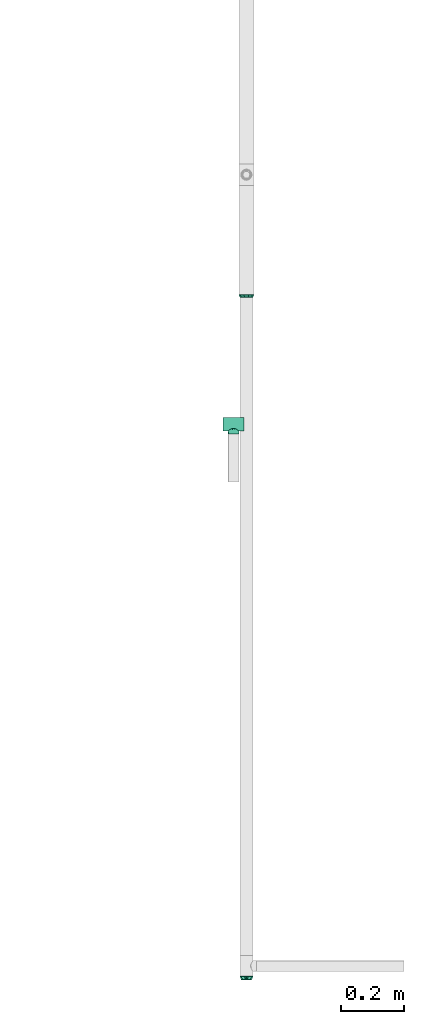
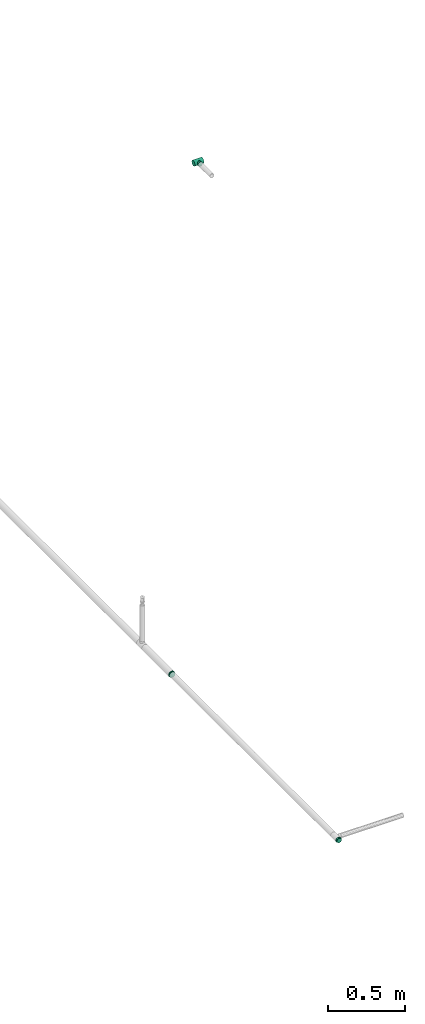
# One storey, part 39 of 63: 3 flow fittings.
"""IFC2X3 building model written with IfcOpenShell, lengths in millimetres."""

from ifc_helpers import new_model, entity, si_unit, converted_unit, derived_unit, direction, frame, origin_with_axes, place, context, subcontext, project, spatial, open_shell, surface_model, source, transform, mapped, type_object, element, save


model = new_model("IFC2X3")

# Units and contexts
model_context = context("Model", 3, precision=0.01, world=frame((0.0, 4.29681676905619e-09, 0.0)), true_north=direction((4.01073788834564e-13, 1.0)))
plan_context = context("Plan", 3, precision=0.01, world=frame((0.0, 4.29681676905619e-09, 0.0)), true_north=direction((4.01073788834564e-13, 1.0)))
body_context = subcontext(model_context, "Body", "Model", "MODEL_VIEW")
ifc_project = project(units=[converted_unit("PLANEANGLEUNIT", "DEGREE", entity("IfcPositiveLengthMeasure", 0.0174532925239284), si_unit("PLANEANGLEUNIT", "RADIAN"), dimensions=[0, 0, 0, 0, 0, 0, 0]), si_unit("AREAUNIT", "SQUARE_METRE"), si_unit("LENGTHUNIT", "METRE", prefix="MILLI"), si_unit("MASSUNIT", "GRAM", prefix="KILO"), si_unit("POWERUNIT", "WATT"), si_unit("PRESSUREUNIT", "PASCAL", prefix="KILO"), si_unit("FORCEUNIT", "NEWTON", prefix="KILO"), si_unit("ELECTRICVOLTAGEUNIT", "VOLT"), si_unit("ELECTRICCURRENTUNIT", "AMPERE"), si_unit("THERMODYNAMICTEMPERATUREUNIT", "DEGREE_CELSIUS"), si_unit("TIMEUNIT", "SECOND"), si_unit("VOLUMEUNIT", "CUBIC_METRE"), derived_unit("LINEARVELOCITYUNIT", [(si_unit("LENGTHUNIT", "METRE"), 1), (si_unit("TIMEUNIT", "SECOND"), -1)]), derived_unit("VOLUMETRICFLOWRATEUNIT", [(si_unit("VOLUMEUNIT", "CUBIC_METRE"), 1), (si_unit("TIMEUNIT", "SECOND"), -1)]), derived_unit("THERMALTRANSMITTANCEUNIT", [(si_unit("POWERUNIT", "WATT"), 1), (si_unit("THERMODYNAMICTEMPERATUREUNIT", "KELVIN"), -1), (si_unit("AREAUNIT", "SQUARE_METRE"), -1)]), derived_unit("SOUNDPRESSUREUNIT", [(si_unit("PRESSUREUNIT", "PASCAL"), 1)])], contexts=[model_context, plan_context])

# Site, building, storey
site_placement = place(None, frame((0.0, -4.29681676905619e-09, 0.0), z_axis=(0.0, 0.0, 1.0), x_axis=(1.0, 0.0, 0.0)))
site = spatial("IfcSite", under=ifc_project, at=site_placement, CompositionType="ELEMENT")
building_placement = place(site_placement, frame((0.0, 4.29681676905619e-09, 0.0), z_axis=(0.0, 0.0, 1.0), x_axis=(1.0, 0.0, 0.0)))
building = spatial("IfcBuilding", under=site, at=building_placement, Name="mc-building", CompositionType="ELEMENT")
storey_placement = place(building_placement, frame((0.0, 0.0, 207370.0), z_axis=(0.0, 0.0, 1.0), x_axis=(1.0, 0.0, 0.0)))
storey = spatial("IfcBuildingStorey", under=building, at=storey_placement, Name="Nivå E", CompositionType="ELEMENT", Elevation=207370.0)

# Flow fittings
pipe_fitting_type_1 = type_object("IfcPipeFittingType", Name="magi_pipe_fe_reducer_centric_short_NOR", PredefinedType="TRANSITION")
shared_shape_1 = source(origin_with_axes(), body_context, "Body", "SurfaceModel", [
    surface_model("IfcShellBasedSurfaceModel", [(8.0, 10.6, -18.35974), (8.0, 0.0, -21.2), (8.0, 5.48696, -20.47763), (8.0, 20.47763, -5.48696), (8.0, 14.99066, -14.99066), (8.0, -21.2, 0.0), (8.0, -14.99066, -14.99066), (8.0, 18.35974, -10.6), (8.0, -10.6, -18.35974), (8.0, -5.48696, -20.47763), (8.0, -18.35974, -10.6), (8.0, -20.47763, -5.48696), (8.0, -18.35974, 10.6), (8.0, 21.2, 0.0), (8.0, 20.47763, 5.48696), (8.0, 18.35974, 10.6), (8.0, 14.99066, 14.99066), (8.0, 0.0, 21.2), (8.0, 10.6, 18.35974), (8.0, 5.48696, 20.47763), (8.0, -14.99066, 14.99066), (8.0, -20.47763, 5.48696), (8.0, -5.48696, 20.47763), (8.0, -10.6, 18.35974), (6.0, 0.0, 21.2), (6.0, 5.48696, 20.47763), (6.0, 10.6, 18.35974), (6.0, 14.99066, 14.99066), (6.0, 18.35974, 10.6), (6.0, 20.47763, 5.48696), (6.0, -21.2, 0.0), (6.0, -14.99066, -14.99066), (6.0, -5.48696, 20.47763), (6.0, -14.99066, 14.99066), (6.0, -10.6, 18.35974), (6.0, -18.35974, 10.6), (6.0, -20.47763, 5.48696), (6.0, 20.47763, -5.48696), (6.0, 10.6, -18.35974), (6.0, 14.99066, -14.99066), (6.0, 18.35974, -10.6), (6.0, 5.48696, -20.47763), (6.0, 0.0, -21.2), (6.0, -18.35974, -10.6), (6.0, -20.47763, -5.48696), (6.0, -10.6, -18.35974), (6.0, -5.48696, -20.47763), (6.0, 21.2, 0.0), (-2.0, 0.0, 24.2), (-2.0, 6.26342, 23.37541), (-2.0, 12.1, 20.95781), (-2.0, 17.11198, 17.11198), (-2.0, 24.2, 0.0), (-2.0, 20.95781, 12.1), (-2.0, -23.37541, 6.26342), (-2.0, -17.11198, -17.11198), (-2.0, -6.26342, 23.37541), (-2.0, -17.11198, 17.11198), (-2.0, -12.1, 20.95781), (-2.0, -20.95781, 12.1), (-2.0, -24.2, 0.0), (-2.0, 23.37541, 6.26342), (-2.0, 23.37541, -6.26342), (-2.0, 6.26342, -23.37541), (-2.0, 17.11198, -17.11198), (-2.0, 20.95781, -12.1), (-2.0, 12.1, -20.95781), (-2.0, -23.37541, -6.26342), (-2.0, -20.95781, -12.1), (-2.0, -6.26342, -23.37541), (-2.0, -12.1, -20.95781), (-2.0, 0.0, -24.2), (0.0, 24.2, 0.0), (0.0, 6.26342, -23.37541), (0.0, 12.1, -20.95781), (0.0, 23.37541, -6.26342), (0.0, 17.11198, -17.11198), (0.0, 20.95781, -12.1), (0.0, -24.2, 0.0), (0.0, -12.1, -20.95781), (0.0, -6.26342, -23.37541), (0.0, 0.0, -24.2), (0.0, -17.11198, -17.11198), (0.0, -23.37541, -6.26342), (0.0, -20.95781, -12.1), (0.0, 20.95781, 12.1), (0.0, 17.11198, 17.11198), (0.0, 12.1, 20.95781), (0.0, 6.26342, 23.37541), (0.0, 0.0, 24.2), (0.0, -23.37541, 6.26342), (0.0, -17.11198, 17.11198), (0.0, -20.95781, 12.1), (0.0, -6.26342, 23.37541), (0.0, -12.1, 20.95781), (0.0, 23.37541, 6.26342), (6.0, -6.55116, 20.1624), (6.0, -17.15116, 12.46105), (6.0, 17.15116, 12.46105), (6.0, 6.55116, 20.1624), (6.0, -6.55116, -20.1624), (6.0, -17.15116, -12.46105), (6.0, 6.55116, -20.1624), (6.0, 17.15116, -12.46105), (0.0, 7.47821, 23.01557), (0.0, 19.57821, 14.2244), (0.0, -7.47821, 23.01557), (0.0, -19.57821, 14.2244), (0.0, 7.47821, -23.01557), (0.0, 19.57821, -14.2244), (0.0, -7.47821, -23.01557), (0.0, -19.57821, -14.2244), (6.0, 11.85116, -16.31172), (0.0, 13.52821, -18.61999), (0.0, 21.8891, -7.1122), (6.0, 19.17558, -6.23052), (0.0, -22.51537, -5.18476), (6.0, 0.0, -20.1624), (0.0, 0.0, -23.01557), (6.0, -19.17558, -6.23052), (0.0, -13.52821, -18.61999), (6.0, -11.85116, -16.31172), (0.0, -21.04679, -9.70458), (6.0, -11.85116, 16.31172), (0.0, -13.52821, 18.61999), (0.0, -21.8891, 7.1122), (6.0, -19.17558, 6.23052), (0.0, 22.51537, 5.18476), (6.0, 0.0, 20.1624), (0.0, 0.0, 23.01557), (6.0, 19.17558, 6.23052), (0.0, 13.52821, 18.61999), (6.0, 11.85116, 16.31172), (0.0, 21.04679, 9.70458)], [open_shell([[[0, 1, 2]], [[3, 0, 4]], [[5, 6, 0]], [[3, 4, 7]], [[3, 5, 0]], [[1, 8, 9]], [[1, 0, 8]], [[10, 5, 11]], [[8, 0, 6]], [[10, 6, 5]], [[12, 3, 13]], [[14, 15, 16]], [[14, 16, 17]], [[18, 19, 17]], [[18, 17, 16]], [[14, 17, 20]], [[5, 12, 21]], [[3, 12, 5]], [[20, 22, 23]], [[12, 14, 20]], [[17, 22, 20]], [[12, 13, 14]], [[24, 25, 26]], [[24, 26, 27]], [[27, 28, 29]], [[27, 29, 24]], [[30, 24, 31]], [[32, 33, 34]], [[32, 24, 33]], [[35, 30, 36]], [[33, 24, 35]], [[24, 30, 35]], [[24, 29, 31]], [[29, 37, 38]], [[39, 37, 40]], [[31, 29, 38]], [[38, 37, 39]], [[41, 42, 38]], [[30, 43, 44]], [[31, 43, 30]], [[45, 42, 46]], [[45, 31, 38]], [[42, 45, 38]], [[37, 29, 47]], [[44, 11, 30]], [[43, 10, 44]], [[8, 31, 45]], [[43, 31, 6]], [[9, 45, 46]], [[44, 10, 11]], [[11, 5, 30]], [[9, 8, 45]], [[6, 31, 8]], [[6, 10, 43]], [[1, 9, 46]], [[46, 42, 1]], [[41, 2, 42]], [[38, 0, 41]], [[7, 39, 40]], [[38, 39, 4]], [[3, 40, 37]], [[38, 4, 0]], [[0, 2, 41]], [[13, 3, 37]], [[7, 40, 3]], [[7, 4, 39]], [[47, 13, 37]], [[42, 2, 1]], [[29, 14, 47]], [[28, 15, 29]], [[18, 27, 26]], [[28, 27, 16]], [[19, 26, 25]], [[29, 15, 14]], [[14, 13, 47]], [[19, 18, 26]], [[16, 27, 18]], [[16, 15, 28]], [[17, 19, 25]], [[25, 24, 17]], [[32, 22, 24]], [[34, 23, 32]], [[12, 33, 35]], [[34, 33, 20]], [[21, 35, 36]], [[34, 20, 23]], [[23, 22, 32]], [[5, 21, 36]], [[12, 35, 21]], [[12, 20, 33]], [[30, 5, 36]], [[24, 22, 17]], [[48, 49, 50]], [[48, 50, 51]], [[52, 51, 53]], [[54, 48, 55]], [[48, 51, 55]], [[56, 57, 58]], [[56, 48, 57]], [[57, 54, 59]], [[48, 54, 57]], [[54, 55, 60]], [[52, 53, 61]], [[51, 62, 63]], [[64, 62, 65]], [[66, 63, 62]], [[66, 62, 64]], [[63, 55, 51]], [[67, 55, 68]], [[60, 55, 67]], [[63, 69, 70]], [[70, 55, 63]], [[69, 63, 71]], [[62, 51, 52]], [[72, 73, 74]], [[75, 74, 76]], [[75, 72, 74]], [[75, 76, 77]], [[73, 78, 79]], [[73, 80, 81]], [[73, 79, 80]], [[82, 83, 84]], [[82, 79, 78]], [[82, 78, 83]], [[73, 72, 85]], [[85, 86, 73]], [[73, 86, 78]], [[87, 88, 89]], [[87, 89, 86]], [[78, 86, 89]], [[90, 91, 92]], [[93, 90, 78]], [[91, 93, 94]], [[93, 91, 90]], [[78, 89, 93]], [[72, 95, 85]], [[67, 83, 60]], [[68, 84, 67]], [[79, 55, 70]], [[68, 55, 82]], [[80, 70, 69]], [[67, 84, 83]], [[83, 78, 60]], [[80, 79, 70]], [[82, 55, 79]], [[82, 84, 68]], [[81, 80, 69]], [[69, 71, 81]], [[63, 73, 71]], [[66, 74, 63]], [[77, 64, 65]], [[66, 64, 76]], [[75, 65, 62]], [[66, 76, 74]], [[74, 73, 63]], [[72, 75, 62]], [[77, 65, 75]], [[77, 76, 64]], [[52, 72, 62]], [[71, 73, 81]], [[61, 95, 52]], [[53, 85, 61]], [[87, 51, 50]], [[53, 51, 86]], [[88, 50, 49]], [[61, 85, 95]], [[95, 72, 52]], [[88, 87, 50]], [[86, 51, 87]], [[86, 85, 53]], [[89, 88, 49]], [[49, 48, 89]], [[56, 93, 48]], [[58, 94, 56]], [[92, 57, 59]], [[58, 57, 91]], [[90, 59, 54]], [[58, 91, 94]], [[94, 93, 56]], [[78, 90, 54]], [[92, 59, 90]], [[92, 91, 57]], [[60, 78, 54]], [[48, 93, 89]], [[96, 97, 98]], [[96, 98, 99]], [[98, 97, 47]], [[97, 100, 47]], [[97, 101, 100]], [[102, 103, 47]], [[47, 100, 102]], [[101, 97, 30]], [[104, 105, 106]], [[105, 107, 106]], [[107, 105, 78]], [[105, 108, 78]], [[109, 108, 105]], [[78, 110, 111]], [[78, 108, 110]], [[105, 72, 109]], [[109, 103, 112]], [[102, 113, 112]], [[113, 102, 108]], [[114, 115, 103]], [[47, 115, 72]], [[113, 109, 112]], [[30, 78, 116]], [[108, 117, 118]], [[118, 117, 100]], [[100, 110, 118]], [[103, 109, 114]], [[72, 115, 114]], [[116, 119, 30]], [[120, 121, 101]], [[100, 121, 110]], [[119, 122, 101]], [[110, 121, 120]], [[101, 111, 120]], [[119, 116, 122]], [[102, 117, 108]], [[122, 111, 101]], [[107, 97, 123]], [[96, 124, 123]], [[124, 96, 106]], [[125, 126, 97]], [[30, 126, 78]], [[124, 107, 123]], [[47, 72, 127]], [[106, 128, 129]], [[129, 128, 99]], [[99, 104, 129]], [[97, 107, 125]], [[78, 126, 125]], [[127, 130, 47]], [[131, 132, 98]], [[99, 132, 104]], [[130, 133, 98]], [[104, 132, 131]], [[98, 105, 131]], [[130, 127, 133]], [[96, 128, 106]], [[133, 105, 98]]])]),
])
flow_fitting_1_placement = place(storey_placement, frame((728641.29045, 436829.40604, 2700.0), z_axis=(0.0, 0.0, 1.0), x_axis=(0.0, -1.0, 0.0)))
element("IfcFlowFitting", 1, at=flow_fitting_1_placement, inside=storey, type_object=pipe_fitting_type_1, Name="magi_pipe_fe_reducer_centric_short_NOR", context=body_context, shape_type="MappedRepresentation", body=[
    mapped(shared_shape_1, transform((0.0, 0.0, 0.0), scale=1.0)),
])
pipe_fitting_type_2 = type_object("IfcPipeFittingType", Name="magi_pipe_fe_tee_centric_90_NOR", PredefinedType="JUNCTION")
shared_shape_2 = source(origin_with_axes(), body_context, "Body", "SurfaceModel", [
    surface_model("IfcShellBasedSurfaceModel", [(-33.8, 0.0, -21.2), (-33.8, -5.48696, -20.47763), (-33.8, 5.48696, -20.47763), (-33.8, 10.6, -18.35974), (-33.8, 14.99066, -14.99066), (-33.8, -20.47763, 5.48696), (-33.8, 18.35974, -10.6), (-33.8, 10.6, 18.35974), (-33.8, -14.99066, -14.99066), (-33.8, -18.35974, -10.6), (-33.8, -10.6, -18.35974), (-33.8, -20.47763, -5.48696), (-33.8, -21.2, 0.0), (-33.8, 18.35974, 10.6), (-33.8, 20.47763, -5.48696), (-33.8, 20.47763, 5.48696), (-33.8, 21.2, 0.0), (-33.8, 14.99066, 14.99066), (-33.8, 5.48696, 20.47763), (-33.8, 0.0, 21.2), (-33.8, -18.35974, 10.6), (-33.8, -14.99066, 14.99066), (-33.8, -10.6, 18.35974), (-33.8, -5.48696, 20.47763), (33.8, 5.48696, -20.47763), (33.8, -5.48696, -20.47763), (33.8, 0.0, -21.2), (33.8, 14.99066, -14.99066), (33.8, 10.6, -18.35974), (33.8, 18.35974, -10.6), (33.8, 20.47763, -5.48696), (33.8, -21.2, 0.0), (33.8, -10.6, -18.35974), (33.8, -18.35974, -10.6), (33.8, -14.99066, -14.99066), (33.8, -20.47763, -5.48696), (33.8, -20.47763, 5.48696), (33.8, 21.2, 0.0), (33.8, 20.47763, 5.48696), (33.8, 18.35974, 10.6), (33.8, 10.6, 18.35974), (33.8, 14.99066, 14.99066), (33.8, 0.0, 21.2), (33.8, 5.48696, 20.47763), (33.8, -14.99066, 14.99066), (33.8, -18.35974, 10.6), (33.8, -10.6, 18.35974), (33.8, -5.48696, 20.47763), (16.9, -21.2, 0.0), (15.78624, -20.32327, 6.03364), (12.81343, -18.11115, 11.01935), (8.52479, -15.37862, 14.59239), (3.07939, -13.16482, 16.61708), (-16.9, -21.2, 0.0), (-15.78686, -20.32375, 6.032), (-8.52604, -15.37932, 14.59166), (-3.0848, -13.16609, 16.61608), (-12.81602, -18.11299, 11.01634), (3.07939, -13.16482, -16.61708), (12.81343, -18.11115, -11.01935), (8.52479, -15.37862, -14.59239), (15.78624, -20.32327, -6.03364), (-3.0848, -13.16609, -16.61608), (-8.52604, -15.37932, -14.59166), (-12.81602, -18.11299, -11.01634), (-15.78686, -20.32375, -6.032), (4.37404, -31.8, -16.32415), (-16.9, -31.8, 0.0), (0.0, -31.8, -16.9), (14.63583, -31.8, -8.45), (8.45, -31.8, -14.63583), (16.32415, -31.8, -4.37404), (11.9501, -31.8, -11.9501), (-11.9501, -31.8, -11.9501), (-8.45, -31.8, -14.63583), (-4.37404, -31.8, -16.32415), (-14.63583, -31.8, -8.45), (-16.32415, -31.8, -4.37404), (16.9, -31.8, 0.0), (8.45, -31.8, 14.63583), (16.32415, -31.8, 4.37404), (14.63583, -31.8, 8.45), (-8.45, -31.8, 14.63583), (11.9501, -31.8, 11.9501), (4.37404, -31.8, 16.32415), (-16.32415, -31.8, 4.37404), (-11.9501, -31.8, 11.9501), (-14.63583, -31.8, 8.45), (0.0, -31.8, 16.9), (-4.37404, -31.8, 16.32415), (-16.34343, -20.76188, 3.016), (16.34312, -20.76163, 3.01682), (-0.00271, -13.16546, 16.61658), (16.34312, -20.76163, -3.01682), (-0.00271, -13.16546, -16.61658), (-16.34343, -20.76188, -3.016)], [open_shell([[[0, 1, 2]], [[3, 2, 4]], [[5, 2, 1]], [[4, 2, 6]], [[6, 2, 7]], [[8, 9, 10]], [[1, 10, 9]], [[9, 11, 1]], [[12, 1, 11]], [[5, 1, 12]], [[13, 14, 6]], [[13, 15, 16]], [[6, 7, 13]], [[5, 7, 2]], [[17, 13, 7]], [[18, 7, 19]], [[20, 21, 5]], [[22, 5, 21]], [[23, 19, 22]], [[7, 5, 22]], [[22, 19, 7]], [[16, 14, 13]], [[24, 25, 26]], [[27, 24, 28]], [[29, 30, 24]], [[29, 24, 27]], [[31, 24, 30]], [[32, 33, 34]], [[33, 32, 25]], [[33, 31, 35]], [[31, 33, 25]], [[25, 24, 31]], [[30, 36, 31]], [[37, 38, 39]], [[37, 39, 40]], [[37, 40, 36]], [[40, 39, 41]], [[42, 40, 43]], [[36, 44, 45]], [[44, 36, 46]], [[46, 42, 47]], [[46, 36, 40]], [[40, 42, 46]], [[37, 36, 30]], [[31, 36, 48]], [[49, 48, 36]], [[36, 45, 49]], [[45, 44, 50]], [[51, 50, 44]], [[52, 51, 44]], [[44, 46, 52]], [[45, 50, 49]], [[53, 54, 5]], [[5, 12, 53]], [[54, 20, 5]], [[55, 56, 21]], [[20, 57, 21]], [[57, 20, 54]], [[21, 57, 55]], [[56, 22, 21]], [[52, 22, 56]], [[19, 47, 42]], [[23, 46, 47]], [[18, 42, 43]], [[39, 38, 15]], [[17, 40, 41]], [[13, 41, 39]], [[43, 40, 7]], [[16, 38, 37]], [[22, 46, 23]], [[23, 47, 19]], [[18, 19, 42]], [[43, 7, 18]], [[7, 40, 17]], [[13, 17, 41]], [[15, 13, 39]], [[38, 16, 15]], [[46, 22, 52]], [[6, 30, 29]], [[14, 37, 30]], [[4, 29, 27]], [[26, 25, 1]], [[2, 28, 24]], [[0, 24, 26]], [[27, 28, 3]], [[10, 25, 32]], [[16, 37, 14]], [[14, 30, 6]], [[4, 6, 29]], [[27, 3, 4]], [[3, 28, 2]], [[0, 2, 24]], [[1, 0, 26]], [[25, 10, 1]], [[32, 58, 10]], [[34, 59, 60]], [[59, 34, 33]], [[60, 58, 34]], [[34, 58, 32]], [[35, 31, 48]], [[35, 61, 33]], [[61, 35, 48]], [[33, 61, 59]], [[62, 63, 8]], [[8, 64, 9]], [[64, 8, 63]], [[62, 8, 10]], [[65, 53, 11]], [[65, 11, 9]], [[11, 53, 12]], [[65, 9, 64]], [[58, 62, 10]], [[66, 67, 68]], [[69, 66, 70]], [[69, 71, 66]], [[69, 70, 72]], [[67, 66, 71]], [[68, 73, 74]], [[74, 75, 68]], [[76, 67, 77]], [[73, 68, 76]], [[67, 76, 68]], [[71, 78, 67]], [[79, 78, 80]], [[79, 80, 81]], [[82, 67, 79]], [[79, 81, 83]], [[82, 79, 84]], [[85, 86, 87]], [[86, 85, 82]], [[82, 88, 89]], [[85, 67, 82]], [[84, 88, 82]], [[79, 67, 78]], [[85, 90, 67]], [[57, 87, 86]], [[85, 87, 54]], [[86, 82, 55]], [[85, 54, 90]], [[90, 53, 67]], [[54, 87, 57]], [[91, 49, 80]], [[55, 89, 56]], [[55, 57, 86]], [[88, 52, 92]], [[55, 82, 89]], [[52, 88, 84]], [[79, 51, 84]], [[50, 83, 81]], [[83, 51, 79]], [[81, 80, 49]], [[83, 50, 51]], [[51, 52, 84]], [[78, 91, 80]], [[49, 50, 81]], [[91, 78, 48]], [[88, 56, 89]], [[92, 56, 88]], [[71, 93, 78]], [[59, 69, 72]], [[71, 69, 61]], [[72, 70, 60]], [[93, 48, 78]], [[61, 69, 59]], [[60, 66, 58]], [[60, 59, 72]], [[68, 62, 94]], [[60, 70, 66]], [[95, 67, 53]], [[95, 65, 77]], [[71, 61, 93]], [[75, 62, 68]], [[65, 76, 77]], [[73, 76, 64]], [[68, 58, 66]], [[75, 63, 62]], [[63, 75, 74]], [[74, 73, 63]], [[63, 73, 64]], [[64, 76, 65]], [[67, 95, 77]], [[94, 58, 68]]])]),
])
flow_fitting_2_placement = place(storey_placement, frame((728600.0, 436418.06941, 7030.0), z_axis=(0.0, 0.0, 1.0), x_axis=(1.0, 0.0, 0.0)))
element("IfcFlowFitting", 2, at=flow_fitting_2_placement, inside=storey, type_object=pipe_fitting_type_2, Name="magi_pipe_fe_tee_centric_90_NOR", context=body_context, shape_type="MappedRepresentation", body=[
    mapped(shared_shape_2, transform((0.0, 0.0, 0.0), scale=1.0)),
])
shared_shape_3 = source(origin_with_axes(), body_context, "Body", "SurfaceModel", [
    surface_model("IfcShellBasedSurfaceModel", [(-2.0, -10.6, -18.35974), (-2.0, 0.0, -21.2), (-2.0, -5.48696, -20.47763), (-2.0, 5.48696, -20.47763), (-2.0, 10.6, -18.35974), (8.6, -11.9501, -11.9501), (8.6, -11.9501, 11.9501), (8.6, -16.9, 0.0), (8.6, 11.9501, -11.9501), (8.6, 16.9, 0.0), (8.6, 0.0, -16.9), (0.0, 17.15116, 12.46105), (0.0, 6.55116, -20.1624), (0.0, -21.2, 0.0), (0.0, -6.55116, -20.1624), (0.0, -17.15116, -12.46105), (8.6, 2.98753, -15.66253), (0.0, 0.0, -20.1624), (0.0, -11.85116, -16.31172), (8.6, -2.98753, -15.66253), (8.6, 8.96258, -13.18758), (8.6, 5.97505, -14.42505), (0.0, 11.85116, -16.31172), (8.6, -5.97505, -14.42505), (8.6, -13.18758, -8.96258), (8.6, -8.96258, -13.18758), (0.0, -6.55116, 20.1624), (8.6, -2.98753, 15.66253), (0.0, 0.0, 20.1624), (8.6, 11.9501, 11.9501), (0.0, 11.85116, 16.31172), (8.6, 2.98753, 15.66253), (0.0, 6.55116, 20.1624), (8.6, -8.96258, 13.18758), (8.6, -5.97505, 14.42505), (0.0, -11.85116, 16.31172), (8.6, 5.97505, 14.42505), (8.6, 13.18758, 8.96258), (8.6, 8.96258, 13.18758), (10.6, 4.37404, -16.32415), (10.6, 8.45, -14.63583), (10.6, 11.9501, -11.9501), (10.6, -8.45, -14.63583), (10.6, 16.32415, -4.37404), (10.6, 16.32415, 4.37404), (10.6, 14.63583, -8.45), (10.6, 0.0, -16.9), (10.6, -4.37404, -16.32415), (10.6, -11.9501, -11.9501), (10.6, -16.32415, -4.37404), (10.6, -14.63583, -8.45), (10.6, -16.32415, 4.37404), (10.6, 16.9, 0.0), (10.6, 14.63583, 8.45), (10.6, 11.9501, 11.9501), (10.6, 4.37404, 16.32415), (10.6, 8.45, 14.63583), (10.6, 0.0, 16.9), (10.6, -14.63583, 8.45), (10.6, -16.9, 0.0), (10.6, -8.45, 14.63583), (10.6, -11.9501, 11.9501), (10.6, -4.37404, 16.32415), (8.6, 4.37404, 16.32415), (8.6, -14.63583, 8.45), (8.6, 0.0, 16.9), (8.6, 16.32415, 4.37404), (8.6, 8.45, 14.63583), (8.6, 14.63583, 8.45), (8.6, -8.45, 14.63583), (8.6, -4.37404, 16.32415), (8.6, -16.32415, 4.37404), (8.6, -16.32415, -4.37404), (8.6, -8.45, -14.63583), (8.6, 16.32415, -4.37404), (8.6, 14.63583, -8.45), (8.6, 8.45, -14.63583), (8.6, 4.37404, -16.32415), (8.6, -14.63583, -8.45), (8.6, -4.37404, -16.32415), (-2.0, 0.0, 21.2), (-2.0, 5.48696, 20.47763), (-2.0, 10.6, 18.35974), (-2.0, 14.99066, 14.99066), (-2.0, 18.35974, 10.6), (-2.0, 20.47763, 5.48696), (-2.0, -21.2, 0.0), (-2.0, -14.99066, -14.99066), (-2.0, -5.48696, 20.47763), (-2.0, -14.99066, 14.99066), (-2.0, -10.6, 18.35974), (-2.0, -18.35974, 10.6), (-2.0, -20.47763, 5.48696), (-2.0, 20.47763, -5.48696), (-2.0, 14.99066, -14.99066), (-2.0, 18.35974, -10.6), (-2.0, -18.35974, -10.6), (-2.0, -20.47763, -5.48696), (-2.0, 21.2, 0.0), (0.0, 10.6, -18.35974), (0.0, 0.0, -21.2), (0.0, 5.48696, -20.47763), (0.0, 20.47763, -5.48696), (0.0, 14.99066, -14.99066), (0.0, -14.99066, -14.99066), (0.0, 18.35974, -10.6), (0.0, -10.6, -18.35974), (0.0, -5.48696, -20.47763), (0.0, -18.35974, -10.6), (0.0, -20.47763, -5.48696), (0.0, -18.35974, 10.6), (0.0, 21.2, 0.0), (0.0, 20.47763, 5.48696), (0.0, 18.35974, 10.6), (0.0, 14.99066, 14.99066), (0.0, 0.0, 21.2), (0.0, 10.6, 18.35974), (0.0, 5.48696, 20.47763), (0.0, -14.99066, 14.99066), (0.0, -20.47763, 5.48696), (0.0, -5.48696, 20.47763), (0.0, -10.6, 18.35974), (0.0, -17.15116, 12.46105), (0.0, 17.15116, -12.46105), (0.0, 14.50116, -14.38638), (8.6, -14.42505, -5.97505), (0.0, -19.17558, -6.23052), (0.0, -18.16337, -9.34579), (8.6, 14.42505, -5.97505), (0.0, 19.17558, -6.23052), (8.6, 13.18758, -8.96258), (8.6, 15.66253, -2.98753), (8.6, -15.66253, -2.98753), (0.0, -14.50116, 14.38638), (8.6, 14.42505, 5.97505), (0.0, 19.17558, 6.23052), (0.0, 18.16337, 9.34579), (8.6, -14.42505, 5.97505), (0.0, -19.17558, 6.23052), (8.6, -13.18758, 8.96258), (8.6, -15.66253, 2.98753), (8.6, 15.66253, 2.98753)], [open_shell([[[0, 1, 2]], [[3, 1, 4]], [[5, 6, 7]], [[8, 9, 10]], [[11, 12, 13]], [[13, 12, 14]], [[13, 14, 15]], [[12, 16, 17]], [[5, 15, 18]], [[17, 19, 14]], [[20, 21, 22]], [[19, 23, 14]], [[12, 21, 16]], [[15, 5, 24]], [[25, 5, 18]], [[22, 8, 20]], [[26, 27, 28]], [[29, 11, 30]], [[28, 31, 32]], [[33, 34, 35]], [[31, 36, 32]], [[26, 34, 27]], [[11, 29, 37]], [[38, 29, 30]], [[35, 6, 33]], [[39, 40, 41]], [[42, 39, 41]], [[41, 43, 44]], [[43, 41, 45]], [[41, 44, 42]], [[46, 42, 47]], [[46, 39, 42]], [[48, 49, 50]], [[49, 48, 42]], [[42, 51, 49]], [[44, 43, 52]], [[44, 53, 54]], [[44, 54, 55]], [[55, 51, 42]], [[55, 54, 56]], [[51, 55, 57]], [[57, 58, 51]], [[59, 49, 51]], [[58, 60, 61]], [[58, 57, 60]], [[60, 57, 62]], [[42, 44, 55]], [[63, 64, 65]], [[66, 63, 67]], [[29, 68, 66]], [[29, 66, 67]], [[64, 63, 66]], [[69, 64, 6]], [[69, 70, 65]], [[65, 64, 69]], [[71, 64, 66]], [[71, 72, 7]], [[71, 66, 73]], [[66, 74, 8]], [[8, 74, 75]], [[8, 76, 77]], [[73, 66, 8]], [[77, 10, 8]], [[72, 5, 78]], [[5, 72, 73]], [[73, 10, 79]], [[72, 71, 73]], [[8, 10, 73]], [[74, 66, 9]], [[72, 49, 7]], [[78, 50, 72]], [[42, 5, 73]], [[78, 5, 48]], [[47, 73, 79]], [[72, 50, 49]], [[49, 59, 7]], [[47, 42, 73]], [[48, 5, 42]], [[48, 50, 78]], [[46, 47, 79]], [[79, 10, 46]], [[77, 39, 10]], [[76, 40, 77]], [[45, 8, 75]], [[76, 8, 41]], [[43, 75, 74]], [[76, 41, 40]], [[40, 39, 77]], [[52, 43, 74]], [[45, 75, 43]], [[45, 41, 8]], [[9, 52, 74]], [[10, 39, 46]], [[66, 44, 9]], [[68, 53, 66]], [[56, 29, 67]], [[68, 29, 54]], [[55, 67, 63]], [[66, 53, 44]], [[44, 52, 9]], [[55, 56, 67]], [[54, 29, 56]], [[54, 53, 68]], [[57, 55, 63]], [[63, 65, 57]], [[70, 62, 65]], [[69, 60, 70]], [[58, 6, 64]], [[69, 6, 61]], [[51, 64, 71]], [[69, 61, 60]], [[60, 62, 70]], [[59, 51, 71]], [[58, 64, 51]], [[58, 61, 6]], [[7, 59, 71]], [[65, 62, 57]], [[80, 81, 82]], [[80, 82, 83]], [[83, 84, 85]], [[83, 85, 80]], [[86, 80, 87]], [[88, 89, 90]], [[88, 80, 89]], [[91, 86, 92]], [[89, 80, 91]], [[80, 86, 91]], [[80, 85, 87]], [[85, 93, 4]], [[94, 93, 95]], [[87, 85, 4]], [[4, 93, 94]], [[86, 96, 97]], [[87, 96, 86]], [[0, 87, 4]], [[1, 0, 4]], [[93, 85, 98]], [[99, 100, 101]], [[102, 99, 103]], [[13, 104, 99]], [[102, 103, 105]], [[102, 13, 99]], [[100, 106, 107]], [[100, 99, 106]], [[108, 13, 109]], [[106, 99, 104]], [[108, 104, 13]], [[110, 102, 111]], [[112, 113, 114]], [[112, 114, 115]], [[116, 117, 115]], [[116, 115, 114]], [[112, 115, 118]], [[13, 110, 119]], [[102, 110, 13]], [[118, 120, 121]], [[110, 112, 118]], [[115, 120, 118]], [[110, 111, 112]], [[97, 109, 86]], [[96, 108, 97]], [[106, 87, 0]], [[96, 87, 104]], [[107, 0, 2]], [[97, 108, 109]], [[109, 13, 86]], [[107, 106, 0]], [[104, 87, 106]], [[104, 108, 96]], [[100, 107, 2]], [[2, 1, 100]], [[3, 101, 1]], [[4, 99, 3]], [[105, 94, 95]], [[4, 94, 103]], [[102, 95, 93]], [[4, 103, 99]], [[99, 101, 3]], [[111, 102, 93]], [[105, 95, 102]], [[105, 103, 94]], [[98, 111, 93]], [[1, 101, 100]], [[85, 112, 98]], [[84, 113, 85]], [[116, 83, 82]], [[84, 83, 114]], [[117, 82, 81]], [[85, 113, 112]], [[112, 111, 98]], [[117, 116, 82]], [[114, 83, 116]], [[114, 113, 84]], [[115, 117, 81]], [[81, 80, 115]], [[88, 120, 80]], [[90, 121, 88]], [[110, 89, 91]], [[90, 89, 118]], [[119, 91, 92]], [[90, 118, 121]], [[121, 120, 88]], [[13, 119, 92]], [[110, 91, 119]], [[110, 118, 89]], [[86, 13, 92]], [[80, 120, 115]], [[65, 6, 29]], [[9, 29, 6]], [[6, 10, 9]], [[10, 6, 5]], [[32, 11, 122]], [[32, 122, 26]], [[122, 11, 13]], [[12, 11, 123]], [[123, 11, 111]], [[8, 22, 124]], [[125, 126, 127]], [[22, 21, 12]], [[8, 124, 123]], [[128, 123, 129]], [[17, 16, 10]], [[123, 128, 130]], [[111, 131, 129]], [[13, 132, 7]], [[18, 23, 25]], [[13, 126, 132]], [[19, 17, 10]], [[131, 111, 9]], [[125, 132, 126]], [[15, 24, 127]], [[24, 125, 127]], [[8, 123, 130]], [[23, 18, 14]], [[131, 128, 129]], [[6, 35, 133]], [[134, 135, 136]], [[35, 34, 26]], [[6, 133, 122]], [[137, 122, 138]], [[28, 27, 65]], [[122, 137, 139]], [[13, 140, 138]], [[111, 141, 9]], [[30, 36, 38]], [[111, 135, 141]], [[31, 28, 65]], [[140, 13, 7]], [[134, 141, 135]], [[11, 37, 136]], [[37, 134, 136]], [[6, 122, 139]], [[36, 30, 32]], [[140, 137, 138]]])]),
])
flow_fitting_3_placement = place(storey_placement, frame((728641.29045, 434660.60604, 2700.0), z_axis=(0.0, 0.0, 1.0), x_axis=(0.0, -1.0, 0.0)))
element("IfcFlowFitting", 3, at=flow_fitting_3_placement, inside=storey, type_object=pipe_fitting_type_1, Name="magi_pipe_fe_reducer_centric_short_NOR", context=body_context, shape_type="MappedRepresentation", body=[
    mapped(shared_shape_3, transform((0.0, 0.0, 0.0), scale=1.0)),
])

save(model, "model.ifc")
